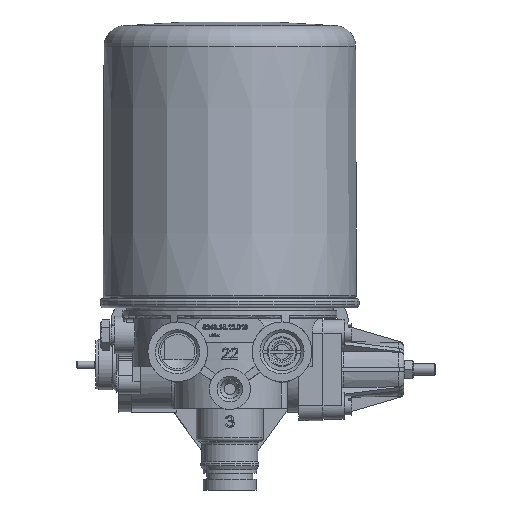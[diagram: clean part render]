
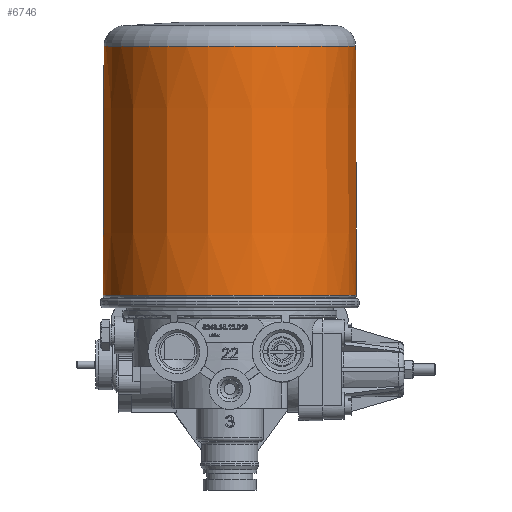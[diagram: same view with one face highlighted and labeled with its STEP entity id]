
A CAD part, front view. The second image highlights one B-rep face of the part: STEP entity #6746.
In plain terms, the highlighted conical face has half-angle 0.208 degrees and reference radius 68 mm.
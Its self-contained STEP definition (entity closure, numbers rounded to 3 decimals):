
#5196=CONICAL_SURFACE('',#25723,68.,0.208);
#6746=ADVANCED_FACE('',(#8188,#8189),#5196,.T.);
#8188=FACE_BOUND('',#9873,.T.);
#8189=FACE_BOUND('',#9874,.T.);
#9873=EDGE_LOOP('',(#16171));
#9874=EDGE_LOOP('',(#16172));
#16171=ORIENTED_EDGE('',*,*,#22149,.F.);
#16172=ORIENTED_EDGE('',*,*,#22150,.F.);
#18891=VERTEX_POINT('',#45835);
#18892=VERTEX_POINT('',#45837);
#22149=EDGE_CURVE('',#18891,#18891,#23436,.T.);
#22150=EDGE_CURVE('',#18892,#18892,#23437,.T.);
#23436=CIRCLE('',#25721,67.985);
#23437=CIRCLE('',#25722,67.5);
#25721=AXIS2_PLACEMENT_3D('',#45834,#31770,#31771);
#25722=AXIS2_PLACEMENT_3D('',#45836,#31772,#31773);
#25723=AXIS2_PLACEMENT_3D('',#45838,#31774,#31775);
#31770=DIRECTION('',(0.,0.,-1.));
#31771=DIRECTION('',(-1.,0.,0.));
#31772=DIRECTION('',(0.,0.,1.));
#31773=DIRECTION('',(1.,0.,0.));
#31774=DIRECTION('',(0.,0.,-1.));
#31775=DIRECTION('',(1.,0.,0.));
#45834=CARTESIAN_POINT('',(0.,0.,34.3));
#45835=CARTESIAN_POINT('',(-67.985,0.,34.3));
#45836=CARTESIAN_POINT('',(0.,0.,168.04));
#45837=CARTESIAN_POINT('',(67.5,0.,168.04));
#45838=CARTESIAN_POINT('',(0.,0.,30.296));
